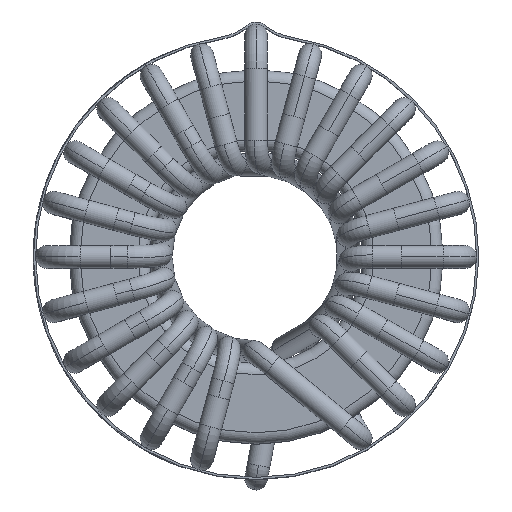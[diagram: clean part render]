
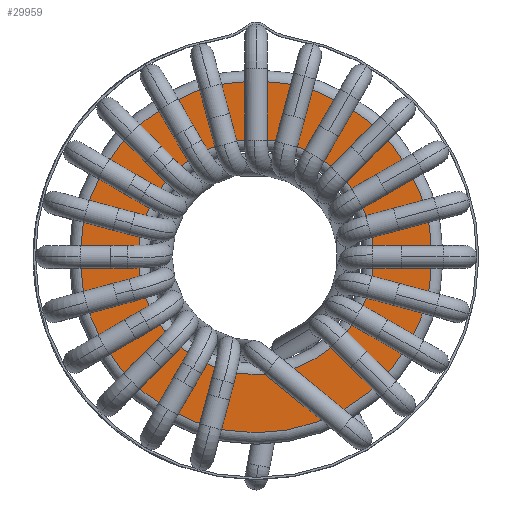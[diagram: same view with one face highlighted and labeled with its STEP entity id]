
A CAD part, top view. The second image highlights one B-rep face of the part: STEP entity #29959.
In plain terms, the highlighted planar face has unit normal (0, 0, 1).
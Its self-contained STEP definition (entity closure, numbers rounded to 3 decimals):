
#507 = ORIENTED_EDGE ( 'NONE', *, *, #4101, .T. ) ;
#1759 = CARTESIAN_POINT ( 'NONE',  ( 0., 0., 11.6 ) ) ;
#3229 = CIRCLE ( 'NONE', #24594, 10.65 ) ;
#4101 = EDGE_CURVE ( 'NONE', #4957, #15267, #29273, .T. ) ;
#4957 = VERTEX_POINT ( 'NONE', #30162 ) ;
#5039 = AXIS2_PLACEMENT_3D ( 'NONE', #30340, #5956, #6804 ) ;
#5601 = EDGE_LOOP ( 'NONE', ( #16525, #7956 ) ) ;
#5956 = DIRECTION ( 'NONE',  ( 0., 0., 1. ) ) ;
#6804 = DIRECTION ( 'NONE',  ( 1., 0., 0. ) ) ;
#7164 = CARTESIAN_POINT ( 'NONE',  ( 0., 0., 11.6 ) ) ;
#7259 = CARTESIAN_POINT ( 'NONE',  ( 0., 0., 11.6 ) ) ;
#7282 = DIRECTION ( 'NONE',  ( 1., 0., 0. ) ) ;
#7579 = CARTESIAN_POINT ( 'NONE',  ( 0., 0., 11.6 ) ) ;
#7956 = ORIENTED_EDGE ( 'NONE', *, *, #33928, .T. ) ;
#8211 = DIRECTION ( 'NONE',  ( 0., 0., 1. ) ) ;
#8785 = AXIS2_PLACEMENT_3D ( 'NONE', #7259, #14993, #26234 ) ;
#10714 = DIRECTION ( 'NONE',  ( 1., 0., 0. ) ) ;
#11694 = CARTESIAN_POINT ( 'NONE',  ( 15.9, 0., 11.6 ) ) ;
#12538 = AXIS2_PLACEMENT_3D ( 'NONE', #1759, #8211, #10714 ) ;
#12702 = PLANE ( 'NONE',  #8785 ) ;
#14492 = AXIS2_PLACEMENT_3D ( 'NONE', #7164, #23561, #7282 ) ;
#14993 = DIRECTION ( 'NONE',  ( 0., 0., 1. ) ) ;
#15267 = VERTEX_POINT ( 'NONE', #11694 ) ;
#15429 = EDGE_CURVE ( 'NONE', #29029, #32022, #29948, .T. ) ;
#16154 = ORIENTED_EDGE ( 'NONE', *, *, #33372, .T. ) ;
#16525 = ORIENTED_EDGE ( 'NONE', *, *, #15429, .T. ) ;
#18962 = FACE_OUTER_BOUND ( 'NONE', #26944, .T. ) ;
#20702 = CARTESIAN_POINT ( 'NONE',  ( 10.65, 0., 11.6 ) ) ;
#22009 = CIRCLE ( 'NONE', #12538, 15.9 ) ;
#23561 = DIRECTION ( 'NONE',  ( 0., 0., -1. ) ) ;
#23837 = DIRECTION ( 'NONE',  ( 1., 0., 0. ) ) ;
#24465 = FACE_BOUND ( 'NONE', #5601, .T. ) ;
#24594 = AXIS2_PLACEMENT_3D ( 'NONE', #7579, #29106, #23837 ) ;
#25462 = CARTESIAN_POINT ( 'NONE',  ( -10.65, 0., 11.6 ) ) ;
#26234 = DIRECTION ( 'NONE',  ( 1., 0., 0. ) ) ;
#26944 = EDGE_LOOP ( 'NONE', ( #16154, #507 ) ) ;
#29029 = VERTEX_POINT ( 'NONE', #20702 ) ;
#29106 = DIRECTION ( 'NONE',  ( 0., 0., -1. ) ) ;
#29273 = CIRCLE ( 'NONE', #5039, 15.9 ) ;
#29948 = CIRCLE ( 'NONE', #14492, 10.65 ) ;
#29959 = ADVANCED_FACE ( 'NONE', ( #24465, #18962 ), #12702, .T. ) ;
#30162 = CARTESIAN_POINT ( 'NONE',  ( -15.9, 0., 11.6 ) ) ;
#30340 = CARTESIAN_POINT ( 'NONE',  ( 0., 0., 11.6 ) ) ;
#32022 = VERTEX_POINT ( 'NONE', #25462 ) ;
#33372 = EDGE_CURVE ( 'NONE', #15267, #4957, #22009, .T. ) ;
#33928 = EDGE_CURVE ( 'NONE', #32022, #29029, #3229, .T. ) ;
